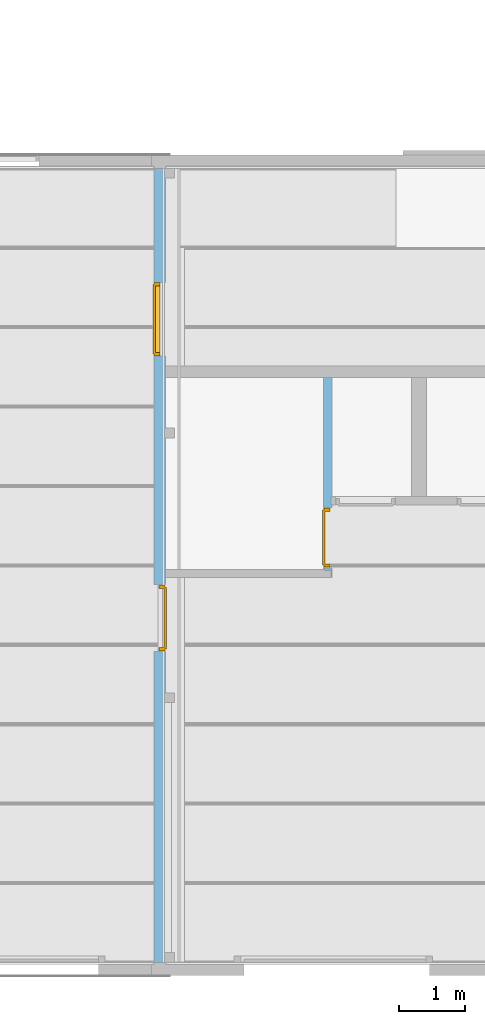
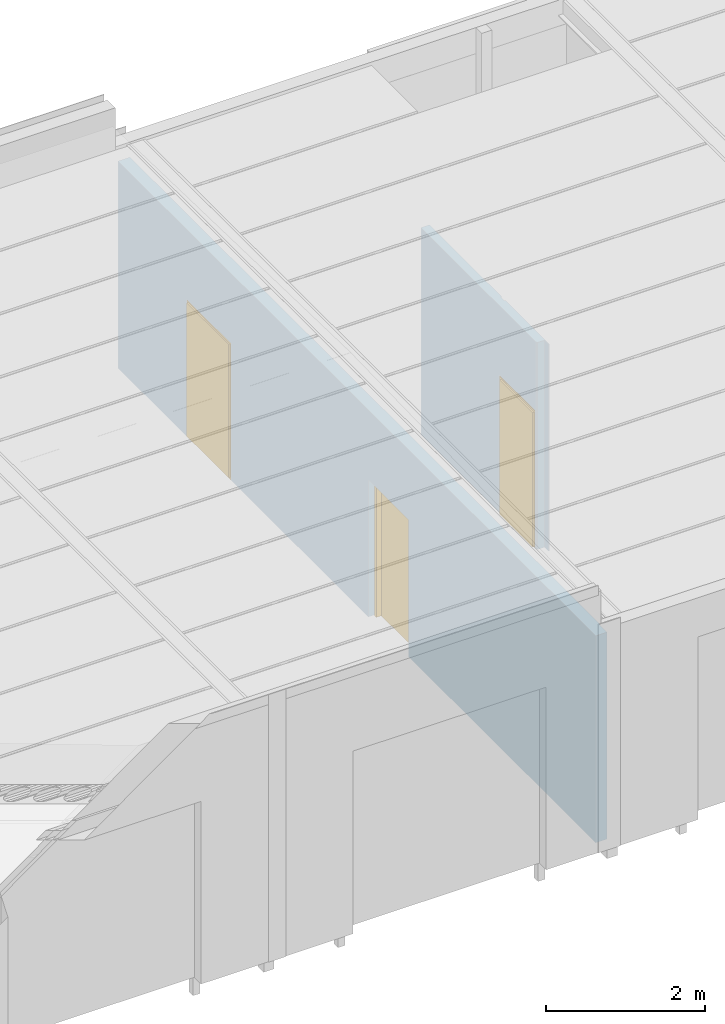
# One storey, part 21 of 45: 3 doors, 3 openings, plus 2 elements that do not belong to this part.
"""IFC2X3 building model written with IfcOpenShell, lengths in millimetres."""

from ifc_helpers import new_model, entity, si_unit, converted_unit, frame, frame_2d, origin, origin_with_axes, place, context, subcontext, project, spatial, polyline, rectangle, outline, extrude, faceted_brep, material, layer, layer_set, layer_usage, type_object, element, fill, save


model = new_model("IFC2X3")

# Units and contexts
model_context = context("Model", 3, precision=1e-05, world=origin())
plan_context = context("Plan", 3, precision=1e-05, world=origin())
body_context = subcontext(model_context, "Body", "Model", "MODEL_VIEW")
ifc_project = project(units=[si_unit("LENGTHUNIT", "METRE", prefix="MILLI"), converted_unit("PLANEANGLEUNIT", "DEGREE", entity("IfcPlaneAngleMeasure", 0.0174532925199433), si_unit("PLANEANGLEUNIT", "RADIAN"), dimensions=[0, 0, 0, 0, 0, 0, 0]), si_unit("AREAUNIT", "SQUARE_METRE"), si_unit("VOLUMEUNIT", "CUBIC_METRE")], contexts=[model_context, plan_context])

# Building, storey
building_placement = place(None, origin())
building = spatial("IfcBuilding", under=ifc_project, at=building_placement, Name="HEKF Administrasjonbygg", CompositionType="ELEMENT")
storey_placement = place(building_placement, frame((0.0, 0.0, 6500.0), z_axis=(0.0, 0.0, 1.0), x_axis=(1.0, 0.0, 0.0)))
storey = spatial("IfcBuildingStorey", under=building, at=storey_placement, Name="Plan 1", CompositionType="ELEMENT", Elevation=6500.0)

# Wall, openings, doors
ifc_material_1 = material(Name="gips")
ifc_layer_1 = layer(ifc_material_1, 13.00000000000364)
ifc_material_2 = material(Name="riegel stål 100")
ifc_layer_2 = layer(ifc_material_2, 150.0)
ifc_material_3 = material(Name="gips")
ifc_layer_3 = layer(ifc_material_3, 12.99999999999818)
ifc_layer_set_1 = layer_set([ifc_layer_1, ifc_layer_2, ifc_layer_3])
ifc_layer_usage_1 = layer_usage(ifc_layer_set_1, "AXIS2", "POSITIVE", -13.0)
wall_1_placement = place(storey_placement, frame((9913.0, -11800.0, 0.0), z_axis=(0.0, 0.0, 1.0), x_axis=(1.541516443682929e-16, 1.0, 0.0)))
wall_1 = element("IfcWallStandardCase", 1, at=wall_1_placement, inside=storey, material=ifc_layer_usage_1, context=body_context, shape_type="SweptSolid", body=[
    extrude(outline(polyline([(-200.0, 175.9999999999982), (-200.0, 12.99999999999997), (-2.003971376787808e-15, 13.0), (0.0, 0.0), (11800.0, 0.0), (11800.0, 175.9999999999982), (-200.0, 175.9999999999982)])), origin_with_axes(), (0.0, 0.0, 1.0), 3170.0),
])
opening_1_placement = place(wall_1_placement, frame((4498.736438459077, 0.0, 0.0), z_axis=(0.0, 1.0, 0.0), x_axis=(0.0, 0.0, 1.0)))
opening_1 = element("IfcOpeningElement", 2, at=opening_1_placement, cuts=wall_1, Name="D008", ObjectType="Opening", context=body_context, shape_type="SweptSolid", body=[
    extrude(rectangle(XDim=2100.0, YDim=1010.0, at=frame_2d((1050.0, 505.0), x_axis=(1.0, 0.0))), origin_with_axes(), (0.0, 0.0, 1.0), 175.9999999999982),
])
opening_2_placement = place(wall_1_placement, frame((8963.0, -3.637978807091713e-12, 0.0), z_axis=(0.0, 1.0, 0.0), x_axis=(0.0, 0.0, 1.0)))
opening_2 = element("IfcOpeningElement", 3, at=opening_2_placement, cuts=wall_1, Name="Door opening", ObjectType="Opening", context=body_context, shape_type="SweptSolid", body=[
    extrude(rectangle(XDim=2100.0, YDim=1110.0, at=frame_2d((1050.0, 555.0), x_axis=(1.0, 0.0))), origin_with_axes(), (0.0, 0.0, 1.0), 175.9999999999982),
])
ifc_material_4 = material()
door_style_1 = type_object("IfcDoorStyle", Name="D008", ConstructionType="NOTDEFINED", OperationType="USERDEFINED", ParameterTakesPrecedence=False, Sizeable=False)
door_1_placement = place(opening_1_placement, frame((0.0, 0.0, 0.0), z_axis=(1.0, 0.0, 0.0), x_axis=(0.0, 1.0, 0.0)))
door_1 = element("IfcDoor", 4, at=door_1_placement, inside=storey, type_object=door_style_1, material=ifc_material_4, Name="D008", OverallHeight=2100.0, OverallWidth=1010.0, context=body_context, shape_type="Brep", body=[
    faceted_brep([(9.999999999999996, 3.999999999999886, 2080.0), (60.0, 3.999999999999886, 2080.0), (60.0, 4.000000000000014, -2.816687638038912e-15), (9.999999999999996, 4.000000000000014, -2.816687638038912e-15), (10.0, 96.0, 2.816687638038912e-15), (60.0, 96.0, 2.816687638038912e-15), (60.0, 95.99999999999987, 2080.0), (10.0, 95.99999999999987, 2080.0), (9.999999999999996, 4.000000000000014, -2.816687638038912e-15), (10.0, 96.0, 2.816687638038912e-15), (10.0, 95.99999999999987, 2080.0), (9.999999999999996, 3.999999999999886, 2080.0), (60.0, 4.000000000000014, -2.816687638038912e-15), (60.0, 96.0, 2.816687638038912e-15), (10.0, 96.0, 2.816687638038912e-15), (9.999999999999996, 4.000000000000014, -2.816687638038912e-15), (60.0, 3.999999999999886, 2080.0), (60.0, 95.99999999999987, 2080.0), (60.0, 96.0, 2.816687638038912e-15), (60.0, 4.000000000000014, -2.816687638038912e-15), (9.999999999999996, 3.999999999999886, 2080.0), (10.0, 95.99999999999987, 2080.0), (60.0, 95.99999999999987, 2080.0), (60.0, 3.999999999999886, 2080.0)], [[[0, 1, 2, 3]], [[4, 5, 6, 7]], [[8, 9, 10, 11]], [[12, 13, 14, 15]], [[16, 17, 18, 19]], [[20, 21, 22, 23]]], orient=[[False], [False], [False], [False], [False], [False]]),
    faceted_brep([(950.0, 3.999999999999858, 2080.0), (1000.0, 3.999999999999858, 2080.0), (1000.0, 3.999999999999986, -2.816687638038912e-15), (950.0, 3.999999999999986, -2.816687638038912e-15), (950.0, 95.99999999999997, 2.816687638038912e-15), (1000.0, 95.99999999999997, 2.816687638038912e-15), (1000.0, 95.99999999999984, 2080.0), (950.0, 95.99999999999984, 2080.0), (950.0, 3.999999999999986, -2.816687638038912e-15), (950.0, 95.99999999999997, 2.816687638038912e-15), (950.0, 95.99999999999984, 2080.0), (950.0, 3.999999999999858, 2080.0), (1000.0, 3.999999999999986, -2.816687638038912e-15), (1000.0, 95.99999999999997, 2.816687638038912e-15), (950.0, 95.99999999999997, 2.816687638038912e-15), (950.0, 3.999999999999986, -2.816687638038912e-15), (1000.0, 3.999999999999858, 2080.0), (1000.0, 95.99999999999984, 2080.0), (1000.0, 95.99999999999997, 2.816687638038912e-15), (1000.0, 3.999999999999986, -2.816687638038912e-15), (950.0, 3.999999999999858, 2080.0), (950.0, 95.99999999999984, 2080.0), (1000.0, 95.99999999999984, 2080.0), (1000.0, 3.999999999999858, 2080.0)], [[[0, 1, 2, 3]], [[4, 5, 6, 7]], [[8, 9, 10, 11]], [[12, 13, 14, 15]], [[16, 17, 18, 19]], [[20, 21, 22, 23]]], orient=[[False], [False], [False], [False], [False], [False]]),
    faceted_brep([(60.0, 3.999999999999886, 2080.0), (949.9999999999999, 3.999999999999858, 2080.0), (949.9999999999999, 3.999999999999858, 2030.0), (60.0, 3.999999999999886, 2030.0), (60.0, 95.99999999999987, 2030.0), (949.9999999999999, 95.99999999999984, 2030.0), (949.9999999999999, 95.99999999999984, 2080.000000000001), (60.0, 95.99999999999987, 2080.000000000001), (60.0, 3.999999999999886, 2030.0), (60.0, 95.99999999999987, 2030.0), (60.0, 95.99999999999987, 2080.000000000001), (60.0, 3.999999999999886, 2080.0), (949.9999999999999, 3.999999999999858, 2030.0), (949.9999999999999, 95.99999999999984, 2030.0), (60.0, 95.99999999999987, 2030.0), (60.0, 3.999999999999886, 2030.0), (949.9999999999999, 3.999999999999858, 2080.0), (949.9999999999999, 95.99999999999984, 2080.000000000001), (949.9999999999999, 95.99999999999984, 2030.0), (949.9999999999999, 3.999999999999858, 2030.0), (60.0, 3.999999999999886, 2080.0), (60.0, 95.99999999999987, 2080.000000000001), (949.9999999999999, 95.99999999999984, 2080.000000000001), (949.9999999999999, 3.999999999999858, 2080.0)], [[[0, 1, 2, 3]], [[4, 5, 6, 7]], [[8, 9, 10, 11]], [[12, 13, 14, 15]], [[16, 17, 18, 19]], [[20, 21, 22, 23]]], orient=[[False], [False], [False], [False], [False], [False]]),
    faceted_brep([(40.00000000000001, -16.00000000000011, 2050.000000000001), (969.9999999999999, -16.00000000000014, 2050.000000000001), (969.9999999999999, -16.00000000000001, -4.041334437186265e-15), (40.00000000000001, -15.99999999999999, -4.041334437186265e-15), (40.00000000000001, 24.00000000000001, -1.592040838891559e-15), (969.9999999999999, 23.99999999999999, -1.592040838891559e-15), (969.9999999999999, 23.99999999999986, 2050.000000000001), (40.00000000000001, 23.99999999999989, 2050.000000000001), (40.00000000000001, -15.99999999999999, -4.041334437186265e-15), (40.00000000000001, 24.00000000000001, -1.592040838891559e-15), (40.00000000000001, 23.99999999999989, 2050.000000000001), (40.00000000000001, -16.00000000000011, 2050.000000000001), (969.9999999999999, -16.00000000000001, -4.041334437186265e-15), (969.9999999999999, 23.99999999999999, -1.592040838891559e-15), (40.00000000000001, 24.00000000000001, -1.592040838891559e-15), (40.00000000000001, -15.99999999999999, -4.041334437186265e-15), (969.9999999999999, -16.00000000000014, 2050.000000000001), (969.9999999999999, 23.99999999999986, 2050.000000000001), (969.9999999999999, 23.99999999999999, -1.592040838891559e-15), (969.9999999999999, -16.00000000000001, -4.041334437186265e-15), (40.00000000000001, -16.00000000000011, 2050.000000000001), (40.00000000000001, 23.99999999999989, 2050.000000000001), (969.9999999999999, 23.99999999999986, 2050.000000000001), (969.9999999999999, -16.00000000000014, 2050.000000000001)], [[[0, 1, 2, 3]], [[4, 5, 6, 7]], [[8, 9, 10, 11]], [[12, 13, 14, 15]], [[16, 17, 18, 19]], [[20, 21, 22, 23]]], orient=[[False], [False], [False], [False], [False], [False]]),
])
fill(opening_1, door_1)
ifc_material_5 = material()
door_style_2 = type_object("IfcDoorStyle", Name="D007", ConstructionType="NOTDEFINED", OperationType="USERDEFINED", ParameterTakesPrecedence=False, Sizeable=False)
door_2_placement = place(opening_2_placement, frame((0.0, 0.0, 0.0), z_axis=(1.0, 0.0, 0.0), x_axis=(0.0, 1.0, 0.0)))
door_2 = element("IfcDoor", 5, at=door_2_placement, inside=storey, type_object=door_style_2, material=ifc_material_5, Name="D007", OverallHeight=2100.0, OverallWidth=1110.0, context=body_context, shape_type="Brep", body=[
    faceted_brep([(-8.920253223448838e-15, 171.9999999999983, 2100.0), (-8.920253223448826e-15, 171.9999999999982, -2.816687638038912e-15), (49.99999999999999, 171.9999999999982, -2.816687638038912e-15), (49.99999999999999, 171.9999999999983, 2100.0), (-3.716772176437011e-16, 79.99999999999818, 2.816687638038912e-15), (-3.71677217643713e-16, 79.99999999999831, 2100.0), (50.0, 79.99999999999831, 2100.0), (50.0, 79.99999999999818, 2.816687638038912e-15), (-8.920253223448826e-15, 171.9999999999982, -2.816687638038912e-15), (-8.920253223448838e-15, 171.9999999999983, 2100.0), (-3.71677217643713e-16, 79.99999999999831, 2100.0), (-3.716772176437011e-16, 79.99999999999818, 2.816687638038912e-15), (49.99999999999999, 171.9999999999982, -2.816687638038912e-15), (-8.920253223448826e-15, 171.9999999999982, -2.816687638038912e-15), (-3.716772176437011e-16, 79.99999999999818, 2.816687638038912e-15), (50.0, 79.99999999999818, 2.816687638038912e-15), (49.99999999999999, 171.9999999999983, 2100.0), (49.99999999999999, 171.9999999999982, -2.816687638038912e-15), (50.0, 79.99999999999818, 2.816687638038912e-15), (50.0, 79.99999999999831, 2100.0), (-8.920253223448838e-15, 171.9999999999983, 2100.0), (49.99999999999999, 171.9999999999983, 2100.0), (50.0, 79.99999999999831, 2100.0), (-3.71677217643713e-16, 79.99999999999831, 2100.0)], [[[0, 1, 2, 3]], [[4, 5, 6, 7]], [[8, 9, 10, 11]], [[12, 13, 14, 15]], [[16, 17, 18, 19]], [[20, 21, 22, 23]]], orient=[[False], [False], [False], [False], [False], [False]]),
    faceted_brep([(1060.0, 171.9999999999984, 2100.0), (1060.0, 171.9999999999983, -2.816687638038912e-15), (1110.0, 171.9999999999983, -2.816687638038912e-15), (1110.0, 171.9999999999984, 2100.0), (1060.0, 79.99999999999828, 2.816687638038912e-15), (1060.0, 79.99999999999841, 2100.0), (1110.0, 79.99999999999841, 2100.0), (1110.0, 79.99999999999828, 2.816687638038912e-15), (1060.0, 171.9999999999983, -2.816687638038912e-15), (1060.0, 171.9999999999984, 2100.0), (1060.0, 79.99999999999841, 2100.0), (1060.0, 79.99999999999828, 2.816687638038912e-15), (1110.0, 171.9999999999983, -2.816687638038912e-15), (1060.0, 171.9999999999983, -2.816687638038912e-15), (1060.0, 79.99999999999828, 2.816687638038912e-15), (1110.0, 79.99999999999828, 2.816687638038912e-15), (1110.0, 171.9999999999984, 2100.0), (1110.0, 171.9999999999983, -2.816687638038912e-15), (1110.0, 79.99999999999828, 2.816687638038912e-15), (1110.0, 79.99999999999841, 2100.0), (1060.0, 171.9999999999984, 2100.0), (1110.0, 171.9999999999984, 2100.0), (1110.0, 79.99999999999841, 2100.0), (1060.0, 79.99999999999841, 2100.0)], [[[0, 1, 2, 3]], [[4, 5, 6, 7]], [[8, 9, 10, 11]], [[12, 13, 14, 15]], [[16, 17, 18, 19]], [[20, 21, 22, 23]]], orient=[[False], [False], [False], [False], [False], [False]]),
    faceted_brep([(49.99999999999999, 171.9999999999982, 25.0), (49.99999999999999, 171.9999999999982, -2.816687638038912e-15), (1060.0, 171.9999999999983, -2.816687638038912e-15), (1060.0, 171.9999999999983, 25.0), (50.0, 79.99999999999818, 2.816687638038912e-15), (50.0, 79.99999999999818, 25.0), (1060.0, 79.99999999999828, 25.0), (1060.0, 79.99999999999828, 2.816687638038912e-15), (49.99999999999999, 171.9999999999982, -2.816687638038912e-15), (49.99999999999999, 171.9999999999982, 25.0), (50.0, 79.99999999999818, 25.0), (50.0, 79.99999999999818, 2.816687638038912e-15), (1060.0, 171.9999999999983, -2.816687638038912e-15), (49.99999999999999, 171.9999999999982, -2.816687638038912e-15), (50.0, 79.99999999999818, 2.816687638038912e-15), (1060.0, 79.99999999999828, 2.816687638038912e-15), (1060.0, 171.9999999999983, 25.0), (1060.0, 171.9999999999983, -2.816687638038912e-15), (1060.0, 79.99999999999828, 2.816687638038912e-15), (1060.0, 79.99999999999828, 25.0), (49.99999999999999, 171.9999999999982, 25.0), (1060.0, 171.9999999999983, 25.0), (1060.0, 79.99999999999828, 25.0), (50.0, 79.99999999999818, 25.0)], [[[0, 1, 2, 3]], [[4, 5, 6, 7]], [[8, 9, 10, 11]], [[12, 13, 14, 15]], [[16, 17, 18, 19]], [[20, 21, 22, 23]]], orient=[[False], [False], [False], [False], [False], [False]]),
    faceted_brep([(49.99999999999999, 171.9999999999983, 2100.000000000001), (49.99999999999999, 171.9999999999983, 2050.000000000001), (1060.0, 171.9999999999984, 2050.000000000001), (1060.0, 171.9999999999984, 2100.000000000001), (50.0, 79.99999999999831, 2050.000000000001), (50.0, 79.99999999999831, 2100.000000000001), (1060.0, 79.99999999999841, 2100.000000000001), (1060.0, 79.99999999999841, 2050.000000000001), (49.99999999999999, 171.9999999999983, 2050.000000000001), (49.99999999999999, 171.9999999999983, 2100.000000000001), (50.0, 79.99999999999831, 2100.000000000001), (50.0, 79.99999999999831, 2050.000000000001), (1060.0, 171.9999999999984, 2050.000000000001), (49.99999999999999, 171.9999999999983, 2050.000000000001), (50.0, 79.99999999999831, 2050.000000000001), (1060.0, 79.99999999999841, 2050.000000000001), (1060.0, 171.9999999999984, 2100.000000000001), (1060.0, 171.9999999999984, 2050.000000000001), (1060.0, 79.99999999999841, 2050.000000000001), (1060.0, 79.99999999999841, 2100.000000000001), (49.99999999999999, 171.9999999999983, 2100.000000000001), (1060.0, 171.9999999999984, 2100.000000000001), (1060.0, 79.99999999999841, 2100.000000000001), (50.0, 79.99999999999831, 2100.000000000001)], [[[0, 1, 2, 3]], [[4, 5, 6, 7]], [[8, 9, 10, 11]], [[12, 13, 14, 15]], [[16, 17, 18, 19]], [[20, 21, 22, 23]]], orient=[[False], [False], [False], [False], [False], [False]]),
    faceted_brep([(29.99999999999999, 191.9999999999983, 2070.000000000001), (29.99999999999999, 191.9999999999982, 25.0), (1080.0, 191.9999999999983, 25.0), (1080.0, 191.9999999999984, 2070.000000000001), (29.99999999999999, 151.9999999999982, 25.0), (29.99999999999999, 151.9999999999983, 2070.000000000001), (1080.0, 151.9999999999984, 2070.000000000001), (1080.0, 151.9999999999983, 25.0), (29.99999999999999, 191.9999999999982, 25.0), (29.99999999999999, 191.9999999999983, 2070.000000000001), (29.99999999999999, 151.9999999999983, 2070.000000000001), (29.99999999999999, 151.9999999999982, 25.0), (1080.0, 191.9999999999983, 25.0), (29.99999999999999, 191.9999999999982, 25.0), (29.99999999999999, 151.9999999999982, 25.0), (1080.0, 151.9999999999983, 25.0), (1080.0, 191.9999999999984, 2070.000000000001), (1080.0, 191.9999999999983, 25.0), (1080.0, 151.9999999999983, 25.0), (1080.0, 151.9999999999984, 2070.000000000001), (29.99999999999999, 191.9999999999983, 2070.000000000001), (1080.0, 191.9999999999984, 2070.000000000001), (1080.0, 151.9999999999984, 2070.000000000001), (29.99999999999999, 151.9999999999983, 2070.000000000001)], [[[0, 1, 2, 3]], [[4, 5, 6, 7]], [[8, 9, 10, 11]], [[12, 13, 14, 15]], [[16, 17, 18, 19]], [[20, 21, 22, 23]]], orient=[[False], [False], [False], [False], [False], [False]]),
])
fill(opening_2, door_2)

# Wall, opening, door
ifc_material_6 = material(Name="gips")
ifc_layer_4 = layer(ifc_material_6, 13.0)
ifc_material_7 = material(Name="riegel stål 100")
ifc_layer_5 = layer(ifc_material_7, 100.0)
ifc_material_8 = material(Name="gips")
ifc_layer_6 = layer(ifc_material_8, 13.0)
ifc_layer_set_2 = layer_set([ifc_layer_4, ifc_layer_5, ifc_layer_6])
ifc_layer_usage_2 = layer_usage(ifc_layer_set_2, "AXIS2", "POSITIVE", 0.0)
wall_2_placement = place(storey_placement, frame((12301.88604435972, -3163.0, 0.0), z_axis=(0.0, 0.0, 1.0), x_axis=(0.0, -1.0, 0.0)))
wall_2 = element("IfcWallStandardCase", 6, at=wall_2_placement, inside=storey, material=ifc_layer_usage_2, context=body_context, shape_type="SweptSolid", body=[
    extrude(outline(polyline([(0.0, 0.0), (2897.999999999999, 0.0), (2897.999999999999, 13.0), (2910.999999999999, 13.0), (2910.999999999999, 113.0), (3010.999999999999, 113.0), (3010.999999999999, 126.0), (1910.999999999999, 126.0), (1910.999999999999, 113.0), (1810.999999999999, 113.0), (1810.999999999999, 126.0), (0.0, 126.0), (0.0, 0.0)])), origin_with_axes(), (0.0, 0.0, 1.0), 3170.0),
])
opening_3_placement = place(wall_2_placement, frame((1963.380815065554, 0.0, 0.0), z_axis=(0.0, 1.0, 0.0), x_axis=(0.0, 0.0, 1.0)))
opening_3 = element("IfcOpeningElement", 7, at=opening_3_placement, cuts=wall_2, Name="D009", ObjectType="Opening", context=body_context, shape_type="SweptSolid", body=[
    extrude(rectangle(XDim=2110.0, YDim=910.0, at=frame_2d((1055.0, 455.0), x_axis=(1.0, 0.0))), origin_with_axes(), (0.0, 0.0, 1.0), 126.0),
])
ifc_material_9 = material()
door_style_3 = type_object("IfcDoorStyle", Name="D009", ConstructionType="NOTDEFINED", OperationType="USERDEFINED", ParameterTakesPrecedence=False, Sizeable=False)
door_3_placement = place(opening_3_placement, frame((0.0, 0.0, 0.0), z_axis=(1.0, 0.0, 0.0), x_axis=(0.0, 1.0, 0.0)))
door_3 = element("IfcDoor", 8, at=door_3_placement, inside=storey, type_object=door_style_3, material=ifc_material_9, Name="D009", OverallHeight=2110.0, OverallWidth=910.0, context=body_context, shape_type="Brep", body=[
    faceted_brep([(900.0, 3.999999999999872, 2090.0), (900.0, 4.0, -2.816687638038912e-15), (850.0, 4.0, -2.816687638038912e-15), (850.0, 3.999999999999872, 2090.0), (900.0, 96.0, 2.816687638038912e-15), (900.0, 95.99999999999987, 2090.0), (850.0, 95.99999999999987, 2090.0), (850.0, 96.0, 2.816687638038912e-15), (900.0, 4.0, -2.816687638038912e-15), (900.0, 3.999999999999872, 2090.0), (900.0, 95.99999999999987, 2090.0), (900.0, 96.0, 2.816687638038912e-15), (850.0, 4.0, -2.816687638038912e-15), (900.0, 4.0, -2.816687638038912e-15), (900.0, 96.0, 2.816687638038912e-15), (850.0, 96.0, 2.816687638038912e-15), (850.0, 3.999999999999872, 2090.0), (850.0, 4.0, -2.816687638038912e-15), (850.0, 96.0, 2.816687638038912e-15), (850.0, 95.99999999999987, 2090.0), (900.0, 3.999999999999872, 2090.0), (850.0, 3.999999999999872, 2090.0), (850.0, 95.99999999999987, 2090.0), (900.0, 95.99999999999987, 2090.0)], [[[0, 1, 2, 3]], [[4, 5, 6, 7]], [[8, 9, 10, 11]], [[12, 13, 14, 15]], [[16, 17, 18, 19]], [[20, 21, 22, 23]]], orient=[[False], [False], [False], [False], [False], [False]]),
    faceted_brep([(60.0, 3.999999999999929, 2090.0), (60.0, 4.000000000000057, -2.816687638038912e-15), (10.0, 4.000000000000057, -2.816687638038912e-15), (10.0, 3.999999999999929, 2090.0), (60.0, 96.00000000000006, 2.816687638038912e-15), (60.0, 95.99999999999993, 2090.0), (10.0, 95.99999999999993, 2090.0), (10.0, 96.00000000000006, 2.816687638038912e-15), (60.0, 4.000000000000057, -2.816687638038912e-15), (60.0, 3.999999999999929, 2090.0), (60.0, 95.99999999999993, 2090.0), (60.0, 96.00000000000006, 2.816687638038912e-15), (10.0, 4.000000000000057, -2.816687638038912e-15), (60.0, 4.000000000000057, -2.816687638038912e-15), (60.0, 96.00000000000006, 2.816687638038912e-15), (10.0, 96.00000000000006, 2.816687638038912e-15), (10.0, 3.999999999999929, 2090.0), (10.0, 4.000000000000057, -2.816687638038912e-15), (10.0, 96.00000000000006, 2.816687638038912e-15), (10.0, 95.99999999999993, 2090.0), (60.0, 3.999999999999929, 2090.0), (10.0, 3.999999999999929, 2090.0), (10.0, 95.99999999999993, 2090.0), (60.0, 95.99999999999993, 2090.0)], [[[0, 1, 2, 3]], [[4, 5, 6, 7]], [[8, 9, 10, 11]], [[12, 13, 14, 15]], [[16, 17, 18, 19]], [[20, 21, 22, 23]]], orient=[[False], [False], [False], [False], [False], [False]]),
    faceted_brep([(850.0, 3.999999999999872, 2090.0), (850.0, 3.999999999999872, 2040.0), (60.00000000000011, 3.999999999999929, 2040.0), (60.00000000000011, 3.999999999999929, 2090.0), (850.0, 95.99999999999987, 2040.0), (850.0, 95.99999999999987, 2090.0), (60.00000000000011, 95.99999999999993, 2090.0), (60.00000000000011, 95.99999999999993, 2040.0), (850.0, 3.999999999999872, 2040.0), (850.0, 3.999999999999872, 2090.0), (850.0, 95.99999999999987, 2090.0), (850.0, 95.99999999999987, 2040.0), (60.00000000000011, 3.999999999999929, 2040.0), (850.0, 3.999999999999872, 2040.0), (850.0, 95.99999999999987, 2040.0), (60.00000000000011, 95.99999999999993, 2040.0), (60.00000000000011, 3.999999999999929, 2090.0), (60.00000000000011, 3.999999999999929, 2040.0), (60.00000000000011, 95.99999999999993, 2040.0), (60.00000000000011, 95.99999999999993, 2090.0), (850.0, 3.999999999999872, 2090.0), (60.00000000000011, 3.999999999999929, 2090.0), (60.00000000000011, 95.99999999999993, 2090.0), (850.0, 95.99999999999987, 2090.0)], [[[0, 1, 2, 3]], [[4, 5, 6, 7]], [[8, 9, 10, 11]], [[12, 13, 14, 15]], [[16, 17, 18, 19]], [[20, 21, 22, 23]]], orient=[[False], [False], [False], [False], [False], [False]]),
    faceted_brep([(870.0, -16.00000000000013, 2060.0), (870.0, -16.0, -4.041334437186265e-15), (40.0, -15.99999999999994, -4.041334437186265e-15), (40.0, -16.00000000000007, 2060.0), (870.0, 24.0, -1.592040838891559e-15), (870.0, 23.99999999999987, 2060.0), (40.0, 23.99999999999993, 2060.0), (40.0, 24.00000000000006, -1.592040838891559e-15), (870.0, -16.0, -4.041334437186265e-15), (870.0, -16.00000000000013, 2060.0), (870.0, 23.99999999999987, 2060.0), (870.0, 24.0, -1.592040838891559e-15), (40.0, -15.99999999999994, -4.041334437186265e-15), (870.0, -16.0, -4.041334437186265e-15), (870.0, 24.0, -1.592040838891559e-15), (40.0, 24.00000000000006, -1.592040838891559e-15), (40.0, -16.00000000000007, 2060.0), (40.0, -15.99999999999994, -4.041334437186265e-15), (40.0, 24.00000000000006, -1.592040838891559e-15), (40.0, 23.99999999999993, 2060.0), (870.0, -16.00000000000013, 2060.0), (40.0, -16.00000000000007, 2060.0), (40.0, 23.99999999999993, 2060.0), (870.0, 23.99999999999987, 2060.0)], [[[0, 1, 2, 3]], [[4, 5, 6, 7]], [[8, 9, 10, 11]], [[12, 13, 14, 15]], [[16, 17, 18, 19]], [[20, 21, 22, 23]]], orient=[[False], [False], [False], [False], [False], [False]]),
])
fill(opening_3, door_3)

save(model, "model.ifc")
